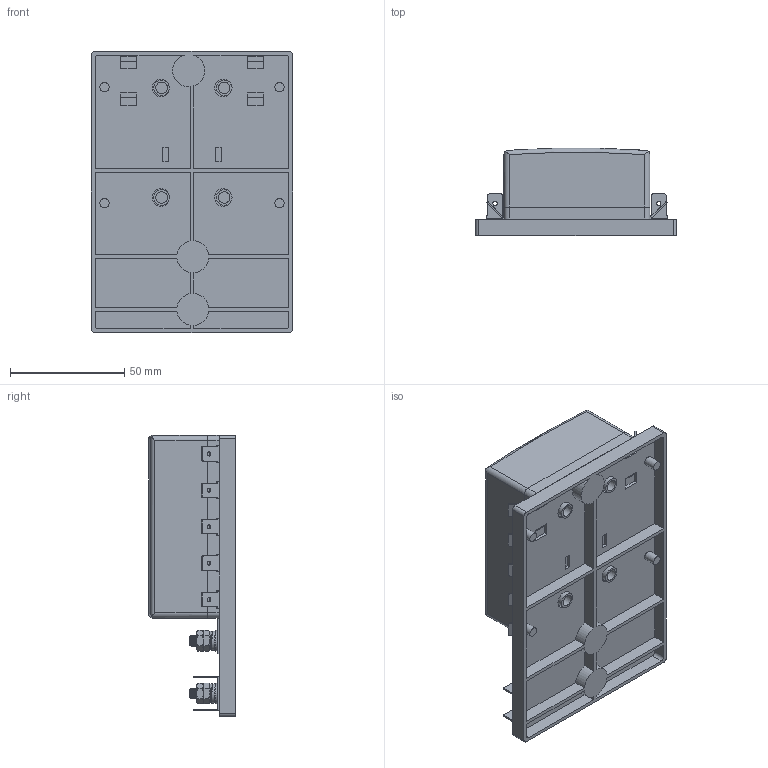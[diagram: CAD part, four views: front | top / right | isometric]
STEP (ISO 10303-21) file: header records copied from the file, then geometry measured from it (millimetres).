
FILE_DESCRIPTION(/* description */ (''),/* implementation_level */ '2;1');
FILE_NAME(/* name */ 'C:\Users\Hani\Desktop\work\BLR-I-310-G\BLR-I-310-G_withCover.stp',/* time_stamp */ '2020-10-19T19:14:18-07:00',/* author */ ('Hani'),/* organization */ (''),/* preprocessor_version */ 'ST-DEVELOPER v17',/* originating_system */ 'Autodesk Inventor 2019',/* authorisation */ '');
FILE_SCHEMA (('AUTOMOTIVE_DESIGN { 1 0 10303 214 3 1 1 }'));
Length unit declared in the file: inch
Products named in the file (12): BLR-I-310-G; BLR-I-310-G_base; BLOCK; plate2; terminal; terminal_MIR2; STUD; HEX NUT; LOCK WASHER; WASHER; holder; cover
Assembly tree (25 placements, depth 2):
  BLR-I-310-G
    BLR-I-310-G_base
    BLOCK
    plate2
    terminal  x5
    terminal_MIR2  x5
    STUD  x2
    HEX NUT  x4
    LOCK WASHER  x2
    WASHER  x2
    holder
    cover
Bounding box: 88.14 x 38.12 x 123.19 mm (x, y, z)
Volume: 117139.3 mm3; surface area: 86979.1 mm2
Topology: 25 solids, 25 shells, 1530 faces, 4067 edges, 2646 vertices
Faces by surface type: plane 853, cylinder 333, bspline 162, cone 128, torus 40, sphere 14
Full cylindrical faces by diameter (mm): 1.905 x22, 3.302 x7, 3.769 x32, 3.795 x4, 4.064 x4, 4.801 x34, 4.826 x12, 4.953 x2, 5.08 x5, 6.858 x4, 7.62 x4, 8.992 x2, 9.779 x4
Entity records: 42146 total; most frequent: CARTESIAN_POINT 13178, ORIENTED_EDGE 6226, DIRECTION 5352, EDGE_CURVE 3113, LINE 2108, VECTOR 2108, VERTEX_POINT 2048, AXIS2_PLACEMENT_3D 1622
